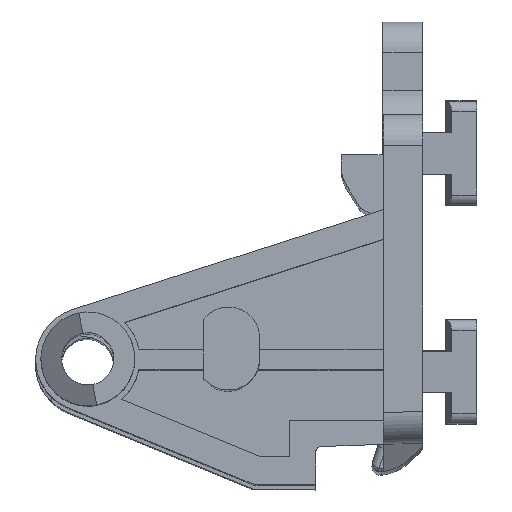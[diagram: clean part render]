
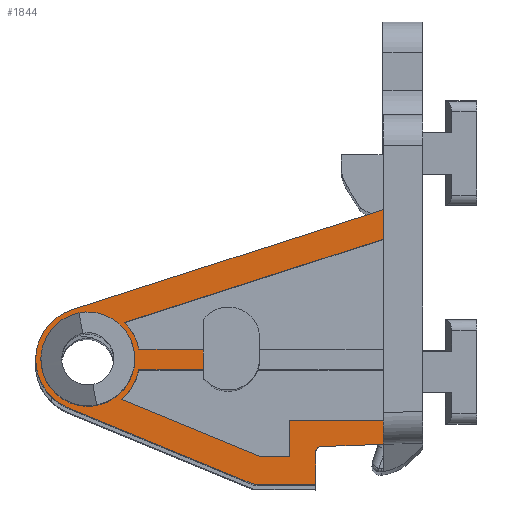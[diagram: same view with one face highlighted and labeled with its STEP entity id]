
A CAD part, left-side view. The second image highlights one B-rep face of the part: STEP entity #1844.
In plain terms, the highlighted planar face has unit normal (-1, -0.001, 0.013).
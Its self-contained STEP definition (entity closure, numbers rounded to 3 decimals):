
#1663=AXIS2_PLACEMENT_3D('Plane Axis2P3D',#1660,#1661,#1662) ;
#1730=AXIS2_PLACEMENT_3D('Circle Axis2P3D',#1728,#1729,$) ;
#1758=AXIS2_PLACEMENT_3D('Circle Axis2P3D',#1756,#1757,$) ;
#1786=AXIS2_PLACEMENT_3D('Circle Axis2P3D',#1784,#1785,$) ;
#1812=AXIS2_PLACEMENT_3D('Circle Axis2P3D',#1810,#1811,$) ;
#1821=AXIS2_PLACEMENT_3D('Circle Axis2P3D',#1819,#1820,$) ;
#1828=AXIS2_PLACEMENT_3D('Circle Axis2P3D',#1826,#1827,$) ;
#1835=AXIS2_PLACEMENT_3D('Circle Axis2P3D',#1833,#1834,$) ;
#1633=CARTESIAN_POINT('Control Point',(1345.125,-494.56,996.279)) ;
#1634=CARTESIAN_POINT('Control Point',(1345.127,-494.56,996.471)) ;
#1635=CARTESIAN_POINT('Control Point',(1345.13,-494.659,996.665)) ;
#1636=CARTESIAN_POINT('Control Point',(1345.132,-494.85,996.772)) ;
#1637=CARTESIAN_POINT('Control Point',(1345.132,-495.042,996.779)) ;
#1638=CARTESIAN_POINT('Vertex',(1345.125,-494.56,996.279)) ;
#1640=CARTESIAN_POINT('Vertex',(1345.132,-495.042,996.779)) ;
#1660=CARTESIAN_POINT('Axis2P3D Location',(1339.145,-1412.366,473.117)) ;
#1665=CARTESIAN_POINT('Line Origine',(1345.121,-479.688,996.832)) ;
#1669=CARTESIAN_POINT('Vertex',(1345.08,-488.62,993.143)) ;
#1671=CARTESIAN_POINT('Vertex',(1345.161,-470.756,1000.522)) ;
#1674=CARTESIAN_POINT('Line Origine',(1345.083,-491.59,993.143)) ;
#1678=CARTESIAN_POINT('Vertex',(1345.085,-494.56,993.143)) ;
#1681=CARTESIAN_POINT('Line Origine',(1345.105,-494.56,994.711)) ;
#1686=CARTESIAN_POINT('Line Origine',(1345.135,-498.03,996.883)) ;
#1690=CARTESIAN_POINT('Vertex',(1345.139,-501.019,996.988)) ;
#1693=CARTESIAN_POINT('Line Origine',(1345.154,-501.019,998.125)) ;
#1697=CARTESIAN_POINT('Vertex',(1345.168,-501.019,999.262)) ;
#1700=CARTESIAN_POINT('Line Origine',(1345.165,-496.539,999.262)) ;
#1704=CARTESIAN_POINT('Vertex',(1345.161,-492.06,999.262)) ;
#1707=CARTESIAN_POINT('Line Origine',(1345.139,-492.06,997.553)) ;
#1711=CARTESIAN_POINT('Vertex',(1345.118,-492.06,995.843)) ;
#1714=CARTESIAN_POINT('Line Origine',(1345.116,-490.608,995.843)) ;
#1718=CARTESIAN_POINT('Vertex',(1345.115,-489.156,995.843)) ;
#1721=CARTESIAN_POINT('Line Origine',(1345.145,-482.523,998.583)) ;
#1725=CARTESIAN_POINT('Vertex',(1345.175,-475.89,1001.322)) ;
#1728=CARTESIAN_POINT('Axis2P3D Location',(1345.221,-472.665,1005.143)) ;
#1732=CARTESIAN_POINT('Vertex',(1345.212,-477.564,1004.143)) ;
#1735=CARTESIAN_POINT('Line Origine',(1345.215,-480.665,1004.143)) ;
#1739=CARTESIAN_POINT('Vertex',(1345.217,-483.767,1004.142)) ;
#1742=CARTESIAN_POINT('Line Origine',(1345.23,-483.767,1005.142)) ;
#1746=CARTESIAN_POINT('Vertex',(1345.243,-483.767,1006.142)) ;
#1749=CARTESIAN_POINT('Line Origine',(1345.24,-480.665,1006.142)) ;
#1753=CARTESIAN_POINT('Vertex',(1345.238,-477.564,1006.142)) ;
#1756=CARTESIAN_POINT('Axis2P3D Location',(1345.221,-472.665,1005.143)) ;
#1760=CARTESIAN_POINT('Vertex',(1345.27,-476.186,1008.692)) ;
#1763=CARTESIAN_POINT('Line Origine',(1345.33,-488.602,1012.689)) ;
#1767=CARTESIAN_POINT('Vertex',(1345.391,-501.019,1016.686)) ;
#1770=CARTESIAN_POINT('Line Origine',(1345.409,-501.019,1018.104)) ;
#1774=CARTESIAN_POINT('Vertex',(1345.427,-501.019,1019.522)) ;
#1777=CARTESIAN_POINT('Line Origine',(1345.354,-486.075,1014.712)) ;
#1781=CARTESIAN_POINT('Vertex',(1345.281,-471.132,1009.902)) ;
#1784=CARTESIAN_POINT('Axis2P3D Location',(1345.221,-472.665,1005.143)) ;
#1810=CARTESIAN_POINT('Axis2P3D Location',(1345.221,-472.665,1005.143)) ;
#1814=CARTESIAN_POINT('Vertex',(1345.279,-472.934,1009.634)) ;
#1816=CARTESIAN_POINT('Vertex',(1345.225,-477.165,1005.142)) ;
#1819=CARTESIAN_POINT('Axis2P3D Location',(1345.221,-472.665,1005.143)) ;
#1823=CARTESIAN_POINT('Vertex',(1345.164,-472.395,1000.651)) ;
#1826=CARTESIAN_POINT('Axis2P3D Location',(1345.221,-472.665,1005.143)) ;
#1830=CARTESIAN_POINT('Vertex',(1345.218,-468.165,1005.143)) ;
#1833=CARTESIAN_POINT('Axis2P3D Location',(1345.221,-472.665,1005.143)) ;
#1661=DIRECTION('Axis2P3D Direction',(1.,0.001,-0.013)) ;
#1662=DIRECTION('Axis2P3D XDirection',(0.001,-1.,0.)) ;
#1666=DIRECTION('Vector Direction',(0.004,0.924,0.382)) ;
#1675=DIRECTION('Vector Direction',(-0.001,1.,0.)) ;
#1682=DIRECTION('Vector Direction',(0.013,0.,1.)) ;
#1687=DIRECTION('Vector Direction',(0.001,-0.999,0.035)) ;
#1694=DIRECTION('Vector Direction',(0.013,0.,1.)) ;
#1701=DIRECTION('Vector Direction',(-0.001,1.,0.)) ;
#1708=DIRECTION('Vector Direction',(0.013,0.,1.)) ;
#1715=DIRECTION('Vector Direction',(-0.001,1.,0.)) ;
#1722=DIRECTION('Vector Direction',(-0.004,-0.924,-0.382)) ;
#1729=DIRECTION('Axis2P3D Direction',(1.,0.001,-0.013)) ;
#1736=DIRECTION('Vector Direction',(0.001,-1.,0.)) ;
#1743=DIRECTION('Vector Direction',(0.013,0.,1.)) ;
#1750=DIRECTION('Vector Direction',(-0.001,1.,0.)) ;
#1757=DIRECTION('Axis2P3D Direction',(1.,0.001,-0.013)) ;
#1764=DIRECTION('Vector Direction',(0.005,-0.952,0.306)) ;
#1771=DIRECTION('Vector Direction',(0.013,0.,1.)) ;
#1778=DIRECTION('Vector Direction',(-0.005,0.952,-0.306)) ;
#1785=DIRECTION('Axis2P3D Direction',(1.,0.001,-0.013)) ;
#1811=DIRECTION('Axis2P3D Direction',(1.,0.001,-0.013)) ;
#1820=DIRECTION('Axis2P3D Direction',(1.,0.001,-0.013)) ;
#1827=DIRECTION('Axis2P3D Direction',(1.,0.001,-0.013)) ;
#1834=DIRECTION('Axis2P3D Direction',(1.,0.001,-0.013)) ;
#1667=VECTOR('Line Direction',#1666,1.) ;
#1676=VECTOR('Line Direction',#1675,1.) ;
#1683=VECTOR('Line Direction',#1682,1.) ;
#1688=VECTOR('Line Direction',#1687,1.) ;
#1695=VECTOR('Line Direction',#1694,1.) ;
#1702=VECTOR('Line Direction',#1701,1.) ;
#1709=VECTOR('Line Direction',#1708,1.) ;
#1716=VECTOR('Line Direction',#1715,1.) ;
#1723=VECTOR('Line Direction',#1722,1.) ;
#1737=VECTOR('Line Direction',#1736,1.) ;
#1744=VECTOR('Line Direction',#1743,1.) ;
#1751=VECTOR('Line Direction',#1750,1.) ;
#1765=VECTOR('Line Direction',#1764,1.) ;
#1772=VECTOR('Line Direction',#1771,1.) ;
#1779=VECTOR('Line Direction',#1778,1.) ;
#1790=ORIENTED_EDGE('',*,*,#1673,.F.) ;
#1791=ORIENTED_EDGE('',*,*,#1680,.F.) ;
#1792=ORIENTED_EDGE('',*,*,#1685,.T.) ;
#1793=ORIENTED_EDGE('',*,*,#1642,.T.) ;
#1794=ORIENTED_EDGE('',*,*,#1692,.T.) ;
#1795=ORIENTED_EDGE('',*,*,#1699,.T.) ;
#1796=ORIENTED_EDGE('',*,*,#1706,.T.) ;
#1797=ORIENTED_EDGE('',*,*,#1713,.F.) ;
#1798=ORIENTED_EDGE('',*,*,#1720,.T.) ;
#1799=ORIENTED_EDGE('',*,*,#1727,.F.) ;
#1800=ORIENTED_EDGE('',*,*,#1734,.F.) ;
#1801=ORIENTED_EDGE('',*,*,#1741,.T.) ;
#1802=ORIENTED_EDGE('',*,*,#1748,.T.) ;
#1803=ORIENTED_EDGE('',*,*,#1755,.T.) ;
#1804=ORIENTED_EDGE('',*,*,#1762,.F.) ;
#1805=ORIENTED_EDGE('',*,*,#1769,.T.) ;
#1806=ORIENTED_EDGE('',*,*,#1776,.T.) ;
#1807=ORIENTED_EDGE('',*,*,#1783,.T.) ;
#1808=ORIENTED_EDGE('',*,*,#1788,.F.) ;
#1839=ORIENTED_EDGE('',*,*,#1818,.T.) ;
#1840=ORIENTED_EDGE('',*,*,#1825,.T.) ;
#1841=ORIENTED_EDGE('',*,*,#1832,.T.) ;
#1842=ORIENTED_EDGE('',*,*,#1837,.T.) ;
#1843=FACE_BOUND('',#1838,.T.) ;
#1844=ADVANCED_FACE('\X2\66F46539540E72B66001\X0\',(#1809,#1843),#1664,.F.) ;
#1632=B_SPLINE_CURVE_WITH_KNOTS('',4,(#1633,#1634,#1635,#1636,#1637),.UNSPECIFIED.,.F.,.U.,(5,5),(0.,1.09),.UNSPECIFIED.) ;
#1731=CIRCLE('generated circle',#1730,5.) ;
#1759=CIRCLE('generated circle',#1758,5.) ;
#1787=CIRCLE('generated circle',#1786,5.) ;
#1813=CIRCLE('generated circle',#1812,4.5) ;
#1822=CIRCLE('generated circle',#1821,4.5) ;
#1829=CIRCLE('generated circle',#1828,4.5) ;
#1836=CIRCLE('generated circle',#1835,4.5) ;
#1642=EDGE_CURVE('',#1639,#1641,#1632,.T.) ;
#1673=EDGE_CURVE('',#1670,#1672,#1668,.T.) ;
#1680=EDGE_CURVE('',#1679,#1670,#1677,.T.) ;
#1685=EDGE_CURVE('',#1679,#1639,#1684,.T.) ;
#1692=EDGE_CURVE('',#1641,#1691,#1689,.T.) ;
#1699=EDGE_CURVE('',#1691,#1698,#1696,.T.) ;
#1706=EDGE_CURVE('',#1698,#1705,#1703,.T.) ;
#1713=EDGE_CURVE('',#1712,#1705,#1710,.T.) ;
#1720=EDGE_CURVE('',#1712,#1719,#1717,.T.) ;
#1727=EDGE_CURVE('',#1726,#1719,#1724,.T.) ;
#1734=EDGE_CURVE('',#1733,#1726,#1731,.T.) ;
#1741=EDGE_CURVE('',#1733,#1740,#1738,.T.) ;
#1748=EDGE_CURVE('',#1740,#1747,#1745,.T.) ;
#1755=EDGE_CURVE('',#1747,#1754,#1752,.T.) ;
#1762=EDGE_CURVE('',#1761,#1754,#1759,.T.) ;
#1769=EDGE_CURVE('',#1761,#1768,#1766,.T.) ;
#1776=EDGE_CURVE('',#1768,#1775,#1773,.T.) ;
#1783=EDGE_CURVE('',#1775,#1782,#1780,.T.) ;
#1788=EDGE_CURVE('',#1672,#1782,#1787,.T.) ;
#1818=EDGE_CURVE('',#1815,#1817,#1813,.T.) ;
#1825=EDGE_CURVE('',#1817,#1824,#1822,.T.) ;
#1832=EDGE_CURVE('',#1824,#1831,#1829,.T.) ;
#1837=EDGE_CURVE('',#1831,#1815,#1836,.T.) ;
#1789=EDGE_LOOP('',(#1790,#1791,#1792,#1793,#1794,#1795,#1796,#1797,#1798,#1799,#1800,#1801,#1802,#1803,#1804,#1805,#1806,#1807,#1808)) ;
#1838=EDGE_LOOP('',(#1839,#1840,#1841,#1842)) ;
#1809=FACE_OUTER_BOUND('',#1789,.T.) ;
#1668=LINE('Line',#1665,#1667) ;
#1677=LINE('Line',#1674,#1676) ;
#1684=LINE('Line',#1681,#1683) ;
#1689=LINE('Line',#1686,#1688) ;
#1696=LINE('Line',#1693,#1695) ;
#1703=LINE('Line',#1700,#1702) ;
#1710=LINE('Line',#1707,#1709) ;
#1717=LINE('Line',#1714,#1716) ;
#1724=LINE('Line',#1721,#1723) ;
#1738=LINE('Line',#1735,#1737) ;
#1745=LINE('Line',#1742,#1744) ;
#1752=LINE('Line',#1749,#1751) ;
#1766=LINE('Line',#1763,#1765) ;
#1773=LINE('Line',#1770,#1772) ;
#1780=LINE('Line',#1777,#1779) ;
#1664=PLANE('Plane',#1663) ;
#1639=VERTEX_POINT('',#1638) ;
#1641=VERTEX_POINT('',#1640) ;
#1670=VERTEX_POINT('',#1669) ;
#1672=VERTEX_POINT('',#1671) ;
#1679=VERTEX_POINT('',#1678) ;
#1691=VERTEX_POINT('',#1690) ;
#1698=VERTEX_POINT('',#1697) ;
#1705=VERTEX_POINT('',#1704) ;
#1712=VERTEX_POINT('',#1711) ;
#1719=VERTEX_POINT('',#1718) ;
#1726=VERTEX_POINT('',#1725) ;
#1733=VERTEX_POINT('',#1732) ;
#1740=VERTEX_POINT('',#1739) ;
#1747=VERTEX_POINT('',#1746) ;
#1754=VERTEX_POINT('',#1753) ;
#1761=VERTEX_POINT('',#1760) ;
#1768=VERTEX_POINT('',#1767) ;
#1775=VERTEX_POINT('',#1774) ;
#1782=VERTEX_POINT('',#1781) ;
#1815=VERTEX_POINT('',#1814) ;
#1817=VERTEX_POINT('',#1816) ;
#1824=VERTEX_POINT('',#1823) ;
#1831=VERTEX_POINT('',#1830) ;
